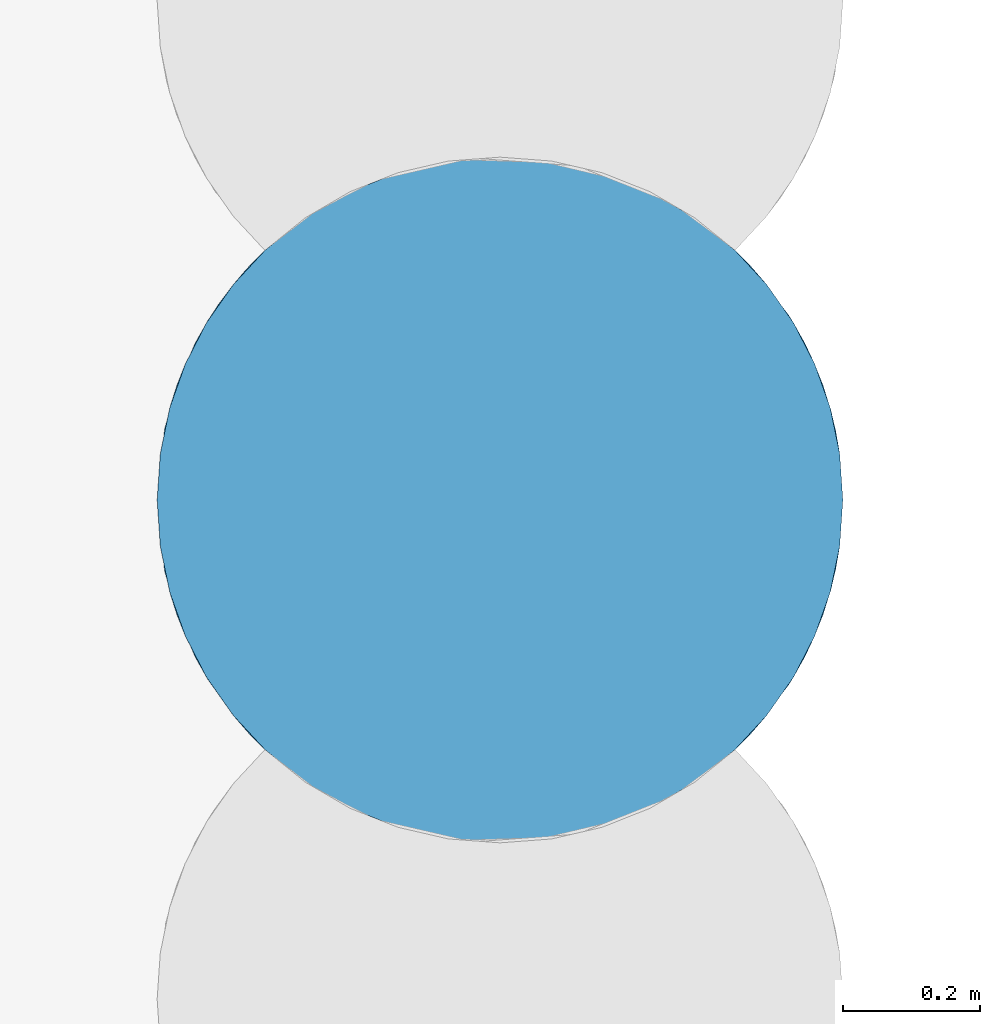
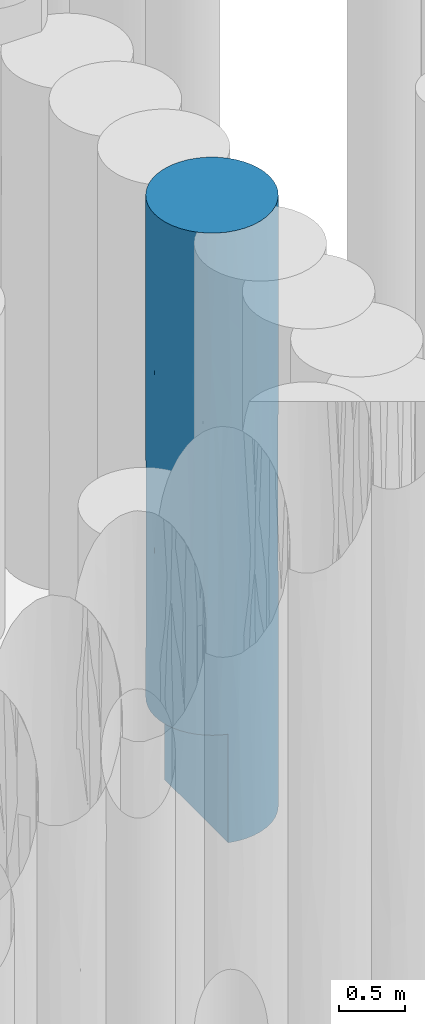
# One storey, part 56 of 104: 1 pile.
"""IFC2X3 building model written with IfcOpenShell, lengths in millimetres."""

from ifc_helpers import new_model, entity, si_unit, converted_unit, derived_unit, direction, frame, origin, place, context, subcontext, project, spatial, faceted_brep, source, transform, mapped, material, element, save


model = new_model("IFC2X3")

# Units and contexts
model_context = context("Model", 3, precision=0.01, world=origin(), true_north=direction((6.12303176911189e-17, 1.0)))
body_context = subcontext(model_context, "Body", "Model", "MODEL_VIEW")
ifc_project = project(units=[si_unit("LENGTHUNIT", "METRE", prefix="MILLI"), si_unit("AREAUNIT", "SQUARE_METRE", prefix="MILLI"), si_unit("VOLUMEUNIT", "CUBIC_METRE"), converted_unit("PLANEANGLEUNIT", "DEGREE", entity("IfcRatioMeasure", 0.0174532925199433), si_unit("PLANEANGLEUNIT", "RADIAN"), dimensions=[0, 0, 0, 0, 0, 0, 0]), si_unit("MASSUNIT", "GRAM", prefix="KILO"), derived_unit("MASSDENSITYUNIT", [(si_unit("MASSUNIT", "GRAM", prefix="KILO"), 1), (si_unit("LENGTHUNIT", "METRE"), -3)]), derived_unit("MOMENTOFINERTIAUNIT", [(si_unit("LENGTHUNIT", "METRE"), 4)]), si_unit("TIMEUNIT", "SECOND"), si_unit("FREQUENCYUNIT", "HERTZ"), si_unit("THERMODYNAMICTEMPERATUREUNIT", "DEGREE_CELSIUS"), derived_unit("THERMALTRANSMITTANCEUNIT", [(si_unit("MASSUNIT", "GRAM", prefix="KILO"), 1), (si_unit("THERMODYNAMICTEMPERATUREUNIT", "KELVIN"), -1), (si_unit("TIMEUNIT", "SECOND"), -3)]), derived_unit("VOLUMETRICFLOWRATEUNIT", [(si_unit("LENGTHUNIT", "METRE"), 3), (si_unit("TIMEUNIT", "SECOND"), -1)]), si_unit("ELECTRICCURRENTUNIT", "AMPERE"), si_unit("ELECTRICVOLTAGEUNIT", "VOLT"), si_unit("POWERUNIT", "WATT"), si_unit("FORCEUNIT", "NEWTON", prefix="KILO"), si_unit("ILLUMINANCEUNIT", "LUX"), si_unit("LUMINOUSFLUXUNIT", "LUMEN"), si_unit("LUMINOUSINTENSITYUNIT", "CANDELA"), derived_unit("USERDEFINED", [(si_unit("MASSUNIT", "GRAM", prefix="KILO"), -1), (si_unit("LENGTHUNIT", "METRE"), -2), (si_unit("TIMEUNIT", "SECOND"), 3), (si_unit("LUMINOUSFLUXUNIT", "LUMEN"), 1)]), derived_unit("LINEARVELOCITYUNIT", [(si_unit("LENGTHUNIT", "METRE"), 1), (si_unit("TIMEUNIT", "SECOND"), -1)]), si_unit("PRESSUREUNIT", "PASCAL"), derived_unit("USERDEFINED", [(si_unit("LENGTHUNIT", "METRE"), -2), (si_unit("MASSUNIT", "GRAM", prefix="KILO"), 1), (si_unit("TIMEUNIT", "SECOND"), -2)]), derived_unit("LINEARFORCEUNIT", [(si_unit("MASSUNIT", "GRAM", prefix="KILO"), 1), (si_unit("LENGTHUNIT", "METRE"), 1), (si_unit("TIMEUNIT", "SECOND"), -2), (si_unit("LENGTHUNIT", "METRE"), -1)]), derived_unit("PLANARFORCEUNIT", [(si_unit("MASSUNIT", "GRAM", prefix="KILO"), 1), (si_unit("LENGTHUNIT", "METRE"), 1), (si_unit("TIMEUNIT", "SECOND"), -2), (si_unit("LENGTHUNIT", "METRE"), -2)])], contexts=[model_context])

# Site, building, storey
site_placement = place(None, origin())
site = spatial("IfcSite", under=ifc_project, at=site_placement, Name="Theater aan de Parade", CompositionType="ELEMENT")
building_placement = place(site_placement, origin())
building = spatial("IfcBuilding", under=site, at=building_placement, Name="Theater aan de Parade", CompositionType="ELEMENT")
storey_placement = place(building_placement, frame((0.0, 0.0, -5520.0)))
storey = spatial("IfcBuildingStorey", under=building, at=storey_placement, Name="-2 kelder", CompositionType="ELEMENT", Elevation=-5520.0)

# Pile
ifc_material = material(Name="00_PBT_MAT_grout")
shared_shape = source(origin(), body_context, "Body", "Brep", [
    faceted_brep([(844.395954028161, 865.577619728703, 0.0), (890.539747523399, 815.796155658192, 0.0), (929.517904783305, 760.211243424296, 0.0), (960.607316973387, 699.857580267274, 0.0), (983.235228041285, 635.84486430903, 0.0), (996.982552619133, 569.355455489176, 0.0), (1001.59527223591, 501.595272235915, 0.0), (996.982552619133, 433.835088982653, 0.0), (983.235228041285, 367.345680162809, 0.0), (960.607316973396, 303.332964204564, 0.0), (929.517904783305, 242.979301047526, 0.0), (890.539747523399, 187.394388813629, 0.0), (844.395954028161, 137.612924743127, 0.0), (787.164833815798, 91.1686338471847, 0.0), (723.73631667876, 53.6517977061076, 0.0), (655.481623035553, 25.8653162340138, 0.0), (583.883200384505, 8.41305755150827, 0.0), (510.496193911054, 1.67450492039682, 0.0), (436.915459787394, 5.7963998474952, 0.0), (364.737142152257, 20.6900297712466, 0.0), (364.737142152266, 982.500514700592, 0.0), (436.915459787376, 997.394144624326, 0.0), (510.496193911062, 1001.51603955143, 0.0), (583.883200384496, 994.777486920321, 0.0), (655.481623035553, 977.325228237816, 0.0), (723.736316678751, 949.538746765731, 0.0), (787.16483381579, 912.021910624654, 0.0), (946.088153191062, 730.562690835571, 1043.53969335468), (249.344536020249, 933.300688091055, 4463.17014318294), (158.80670766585, 865.59527223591, 5620.0), (217.483259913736, 913.032223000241, 5620.0), (985.213296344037, 628.534654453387, 1004.42933272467), (973.009053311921, 668.235744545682, 1936.0851593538), (463.858643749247, 1000.16918538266, 4259.34974449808), (501.595272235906, 1001.59527223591, 5620.0), (613.944699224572, 988.809399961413, 4275.67466699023), (204.660366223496, 903.875847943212, 1000.0), (181.161378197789, 885.420909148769, 2396.54211556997), (250.423769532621, 933.929490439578, 1914.18443114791), (868.306365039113, 841.48198044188, 1387.65374803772), (756.142699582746, 931.95048276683, 1012.0603417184), (959.032846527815, 703.463708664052, 2919.59475431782), (868.306364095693, 841.481981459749, 2809.9973883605), (925.761095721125, 766.32788108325, 3732.47138636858), (785.707284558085, 913.032223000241, 5620.0), (753.846007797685, 933.300688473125, 4800.53334556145), (720.545942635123, 951.106789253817, 5620.0), (890.546518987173, 815.787773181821, 5620.0), (946.091900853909, 730.555415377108, 4676.41921773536), (868.311762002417, 841.476157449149, 4258.14392244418), (973.010577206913, 668.231433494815, 3903.08947601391), (663.932568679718, 974.508162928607, 934.425623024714), (547.314016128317, 999.500681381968, 1387.25893523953), (91.3677288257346, 787.450764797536, 2236.39003135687), (158.806707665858, 865.59527223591, 1000.0), (112.658831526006, 815.80610127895, 1000.0), (539.331899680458, 1000.16918546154, 3038.70326995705), (194.690734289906, 896.3225256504, 3534.12619714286), (125.271006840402, 830.806522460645, 3130.1171957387), (1001.59527223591, 501.595272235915, 5620.0), (991.238840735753, 602.833485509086, 4676.41593545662), (996.982276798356, 569.357471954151, 5620.0), (308.346723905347, 962.740584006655, 1000.0), (254.743436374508, 936.410372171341, 1000.0), (76.2812336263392, 764.479217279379, 4615.57643001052), (30.1799660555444, 668.231430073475, 4401.73359973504), (42.5806424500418, 699.851595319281, 5620.0), (1001.59527223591, 501.595272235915, 3123.07544949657), (1001.59527223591, 501.595272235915, 4058.46227525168), (983.235934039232, 635.842331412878, 5620.0), (660.984834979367, 975.509786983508, 3485.87169634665), (726.994212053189, 947.908299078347, 2859.16529902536), (632.292271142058, 984.211366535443, 2619.96955620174), (281.1516122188, 950.376502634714, 3301.86801593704), (403.358032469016, 991.849741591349, 3206.83737331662), (336.246493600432, 973.463666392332, 2200.06745595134), (57.0986427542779, 730.555413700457, 3310.00244835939), (134.878781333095, 841.476156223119, 4148.62385475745), (960.609902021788, 699.851595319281, 5620.0), (929.522999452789, 760.202813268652, 5620.0), (457.377813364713, 999.636250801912, 2181.17722905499), (350.648106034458, 978.265968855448, 4149.82848767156), (844.383836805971, 865.595272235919, 5620.0), (803.352544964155, 900.271266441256, 3201.16233092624), (650.395275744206, 978.940596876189, 5620.0), (576.853265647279, 995.899059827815, 5620.0), (922.600197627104, 771.326347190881, 2115.24967392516), (364.737142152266, 982.500514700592, 1000.0), (352.795268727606, 978.940596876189, 5620.0), (426.337278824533, 995.899059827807, 5620.0), (690.121589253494, 964.691188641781, 1836.52803985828), (991.55770847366, 601.278826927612, 2715.80955034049), (1001.59527223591, 501.595272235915, 1561.53772474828), (753.84600738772, 933.300688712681, 3910.60192042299), (73.6753405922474, 760.215712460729, 1000.0), (1.5952722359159, 501.595272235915, 2561.53770802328), (30.1797428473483, 668.230798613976, 2218.26464836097), (6.20628386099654, 569.3429673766, 1000.0), (794.694441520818, 906.6790622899, 2051.18962286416), (1.5952722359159, 501.595272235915, 1000.0), (6.20826767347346, 569.357471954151, 5620.0), (1.5952722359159, 501.595272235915, 4123.07541604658), (1.5952722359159, 501.595272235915, 5620.0), (42.582206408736, 699.855216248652, 1000.0), (19.953191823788, 635.837241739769, 1000.0), (112.644025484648, 815.787773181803, 5620.0), (19.9546104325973, 635.842331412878, 5620.0), (282.644601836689, 951.106789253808, 5620.0), (12.4025620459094, 604.990109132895, 3331.95278221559), (462.729871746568, 1000.08246429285, 891.375751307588), (554.377817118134, 998.801469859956, 2217.52824525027), (73.6675450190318, 760.202813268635, 5620.0), (75.5355014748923, 239.921674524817, 1994.39433055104), (30.1797429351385, 334.959745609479, 2218.28268253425), (42.582206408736, 303.335328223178, 1000.0), (249.34453623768, 69.8898562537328, 4477.64028937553), (158.80670766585, 137.595272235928, 5620.0), (134.878781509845, 161.714388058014, 4204.32385528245), (73.1025715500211, 243.924929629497, 4207.11061054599), (30.1799661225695, 334.959114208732, 4401.70440777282), (57.1029969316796, 272.626677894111, 3309.99064385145), (204.660366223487, 99.3146965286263, 1000.0), (227.371021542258, 83.5031049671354, 2160.49952016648), (158.80670766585, 137.595272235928, 1000.0), (308.346723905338, 40.4499604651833, 1000.0), (336.246493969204, 29.7268779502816, 2397.27757697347), (112.658831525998, 187.384443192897, 1000.0), (134.88678968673, 161.705747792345, 2410.71841601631), (663.932569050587, 28.6823816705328, 934.425625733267), (6.20628386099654, 433.847577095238, 1000.0), (229.215704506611, 82.2989914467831, 3303.66461307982), (460.172142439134, 3.31410229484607, 994.544109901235), (547.314016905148, 3.68986316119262, 1387.25893630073), (433.611976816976, 6.23856082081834, 1852.86551730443), (364.737142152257, 20.6900297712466, 1000.0), (973.009053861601, 334.954801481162, 1936.08516455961), (946.088153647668, 272.627854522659, 1043.53969615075), (985.213296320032, 374.655889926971, 1004.4293363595), (890.546518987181, 187.402771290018, 5620.0), (946.091901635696, 272.635130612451, 4676.41921033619), (929.522999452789, 242.987731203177, 5620.0), (375.205583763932, 17.833299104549, 4812.35143846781), (282.644601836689, 52.0837552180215, 5620.0), (254.743436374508, 66.7801723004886, 1000.0), (868.311763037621, 161.714388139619, 4258.14392621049), (844.383836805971, 137.595272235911, 5620.0), (753.846008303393, 69.8898562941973, 4800.53334285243), (112.64402548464, 187.402771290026, 5620.0), (42.5806424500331, 303.338949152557, 5620.0), (151.10323236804, 145.006811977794, 3307.53404869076), (73.6753405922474, 242.974832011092, 1000.0), (973.010578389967, 334.959114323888, 3903.08946802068), (991.238840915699, 400.357059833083, 4676.41592103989), (19.9531918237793, 367.353302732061, 1000.0), (539.331900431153, 3.02135906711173, 3038.70327224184), (632.292272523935, 18.9791783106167, 2619.96956137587), (661.185093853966, 27.7481567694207, 3478.29436692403), (6.20826767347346, 433.833072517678, 5620.0), (959.03284775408, 299.726838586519, 2919.59475995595), (991.557708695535, 401.911718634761, 2715.80956584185), (960.609902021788, 303.338949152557, 5620.0), (485.427200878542, 1.85674713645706, 3803.51644471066), (428.94373235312, 6.9016764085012, 2922.6077655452), (922.600198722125, 231.864198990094, 2115.2496757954), (19.9546104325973, 367.348213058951, 5620.0), (756.142700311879, 71.2400621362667, 1012.06034369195), (463.858644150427, 3.02135905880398, 4693.02600419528), (389.245844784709, 14.3811446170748, 3987.40728501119), (73.6675450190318, 242.987731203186, 5620.0), (217.483259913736, 90.1583214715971, 5620.0), (726.994214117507, 55.2822464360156, 2859.1652972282), (690.121590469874, 38.4993563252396, 1836.52804321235), (650.395275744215, 24.2499475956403, 5620.0), (613.944699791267, 14.3811446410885, 4259.35054825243), (794.694442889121, 96.5114831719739, 2051.18962210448), (320.066399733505, 35.7119515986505, 3323.81988614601), (925.761097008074, 236.862665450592, 3732.47138341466), (554.377818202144, 4.38907472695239, 2217.52824747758), (868.306366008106, 161.708565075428, 1387.65375479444), (426.337278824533, 7.29148464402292, 5620.0), (501.595272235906, 1.5952722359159, 5620.0), (753.846008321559, 69.8898563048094, 3910.60191686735), (996.982276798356, 433.83307251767, 5620.0), (983.235934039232, 367.348213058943, 5620.0), (12.4043080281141, 398.192174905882, 3331.87000257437), (352.795268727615, 24.2499475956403, 5620.0), (576.853265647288, 7.29148464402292, 5620.0), (720.545942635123, 52.0837552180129, 5620.0), (785.707284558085, 90.1583214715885, 5620.0), (803.35254702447, 102.919279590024, 3201.16233698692), (868.30636604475, 161.708565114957, 2809.99739513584)], [[[0, 1, 2, 3, 4, 5, 6, 7, 8, 9, 10, 11, 12, 13, 14, 15, 16, 17, 18, 19, 20, 21, 22, 23, 24, 25, 26]], [[27, 3, 2]], [[28, 29, 30]], [[4, 31, 5]], [[32, 31, 27]], [[33, 34, 35]], [[36, 37, 38]], [[27, 1, 39]], [[31, 3, 27]], [[26, 25, 40]], [[41, 42, 43]], [[44, 45, 46]], [[47, 48, 49]], [[43, 48, 50]], [[51, 40, 25]], [[22, 52, 23]], [[53, 54, 55]], [[35, 56, 33]], [[51, 23, 52]], [[51, 25, 24]], [[57, 37, 58]], [[59, 60, 61]], [[38, 62, 63]], [[64, 65, 66]], [[4, 3, 31]], [[67, 50, 68]], [[43, 49, 48]], [[69, 60, 48]], [[61, 60, 69]], [[37, 53, 58]], [[70, 71, 72]], [[73, 74, 75]], [[58, 76, 77]], [[69, 48, 78]], [[79, 78, 48]], [[75, 74, 80]], [[28, 81, 73]], [[47, 49, 82]], [[82, 49, 45]], [[50, 48, 60]], [[83, 49, 42]], [[35, 84, 45]], [[47, 79, 48]], [[35, 85, 84]], [[86, 42, 41]], [[75, 80, 87]], [[0, 26, 40]], [[20, 87, 21]], [[1, 27, 2]], [[81, 88, 89]], [[51, 90, 40]], [[38, 75, 62]], [[91, 92, 32]], [[49, 93, 45]], [[54, 37, 36]], [[55, 94, 53]], [[1, 0, 39]], [[95, 96, 97]], [[98, 71, 83]], [[97, 99, 95]], [[100, 101, 102]], [[53, 96, 76]], [[103, 104, 96]], [[32, 41, 91]], [[96, 94, 103]], [[77, 64, 105]], [[39, 40, 98]], [[28, 73, 57]], [[100, 106, 65]], [[89, 34, 33]], [[34, 85, 35]], [[62, 75, 87]], [[59, 68, 60]], [[89, 33, 81]], [[30, 107, 28]], [[108, 96, 95]], [[97, 96, 104]], [[29, 28, 77]], [[74, 81, 33]], [[76, 65, 64]], [[75, 38, 73]], [[22, 21, 109]], [[100, 65, 101]], [[29, 77, 105]], [[108, 101, 65]], [[70, 93, 71]], [[45, 84, 46]], [[106, 66, 65]], [[72, 110, 56]], [[111, 64, 66]], [[108, 65, 76]], [[81, 107, 88]], [[109, 21, 87]], [[86, 27, 39]], [[6, 5, 92]], [[68, 50, 60]], [[98, 40, 90]], [[0, 40, 39]], [[45, 44, 82]], [[35, 45, 93]], [[71, 98, 90]], [[42, 39, 98]], [[41, 43, 50]], [[42, 49, 43]], [[91, 50, 67]], [[41, 32, 86]], [[27, 86, 32]], [[39, 42, 86]], [[53, 37, 54]], [[94, 96, 53]], [[96, 108, 76]], [[101, 108, 95]], [[33, 56, 74]], [[80, 74, 56]], [[72, 71, 90]], [[83, 71, 93]], [[50, 91, 41]], [[92, 91, 67]], [[110, 80, 56]], [[80, 52, 109]], [[32, 92, 31]], [[5, 31, 92]], [[73, 81, 74]], [[81, 28, 107]], [[23, 51, 24]], [[52, 90, 51]], [[110, 90, 52]], [[70, 56, 35]], [[56, 70, 72]], [[93, 70, 35]], [[90, 110, 72]], [[80, 110, 52]], [[76, 58, 53]], [[57, 58, 77]], [[28, 57, 77]], [[37, 57, 73]], [[49, 83, 93]], [[98, 83, 42]], [[36, 38, 63]], [[73, 38, 37]], [[105, 64, 111]], [[76, 64, 77]], [[80, 109, 87]], [[22, 109, 52]], [[112, 113, 114]], [[115, 116, 117]], [[118, 119, 120]], [[121, 122, 123]], [[124, 125, 122]], [[126, 127, 112]], [[128, 15, 14]], [[95, 99, 129]], [[125, 130, 122]], [[131, 132, 133]], [[134, 19, 18]], [[135, 136, 137]], [[138, 139, 140]], [[115, 141, 142]], [[124, 122, 143]], [[144, 145, 146]], [[92, 137, 7]], [[125, 124, 134]], [[147, 117, 116]], [[127, 126, 123]], [[118, 148, 119]], [[130, 149, 122]], [[112, 114, 150]], [[151, 68, 152]], [[129, 153, 113]], [[154, 155, 156]], [[102, 101, 157]], [[157, 101, 119]], [[151, 158, 159]], [[160, 140, 139]], [[154, 161, 162]], [[163, 135, 158]], [[148, 164, 119]], [[130, 115, 117]], [[165, 14, 13]], [[166, 141, 167]], [[118, 168, 148]], [[169, 115, 142]], [[170, 155, 171]], [[146, 172, 173]], [[115, 167, 141]], [[171, 174, 170]], [[125, 175, 130]], [[125, 133, 162]], [[17, 132, 131]], [[176, 139, 144]], [[17, 16, 132]], [[133, 177, 162]], [[177, 171, 155]], [[178, 165, 12]], [[179, 166, 180]], [[163, 136, 135]], [[115, 130, 175]], [[128, 14, 165]], [[11, 178, 12]], [[115, 169, 116]], [[92, 7, 6]], [[173, 181, 146]], [[59, 182, 152]], [[152, 182, 183]], [[136, 10, 9]], [[184, 113, 120]], [[184, 101, 95]], [[137, 136, 9]], [[9, 8, 137]], [[157, 119, 164]], [[129, 113, 95]], [[67, 68, 151]], [[141, 179, 185]], [[138, 145, 144]], [[173, 166, 161]], [[184, 120, 119]], [[166, 186, 180]], [[172, 186, 173]], [[118, 147, 168]], [[165, 174, 171]], [[165, 171, 128]], [[11, 10, 136]], [[187, 146, 188]], [[188, 146, 145]], [[120, 113, 112]], [[127, 122, 149]], [[158, 151, 176]], [[151, 152, 139]], [[139, 152, 183]], [[139, 176, 151]], [[139, 138, 144]], [[189, 144, 181]], [[139, 183, 160]], [[149, 120, 127]], [[159, 92, 67]], [[16, 15, 128]], [[11, 136, 178]], [[153, 114, 113]], [[59, 152, 68]], [[12, 165, 13]], [[174, 165, 178]], [[161, 166, 167]], [[186, 166, 173]], [[146, 187, 172]], [[144, 146, 181]], [[178, 190, 174]], [[170, 189, 181]], [[144, 190, 176]], [[190, 163, 158]], [[190, 158, 176]], [[159, 158, 135]], [[190, 178, 163]], [[136, 163, 178]], [[101, 184, 119]], [[113, 184, 95]], [[189, 174, 190]], [[181, 173, 156]], [[92, 159, 135]], [[151, 159, 67]], [[7, 137, 8]], [[92, 135, 137]], [[167, 175, 162]], [[173, 161, 154]], [[167, 162, 161]], [[125, 134, 133]], [[131, 133, 134]], [[133, 132, 177]], [[171, 132, 128]], [[16, 128, 132]], [[156, 155, 170]], [[177, 155, 154]], [[181, 156, 170]], [[154, 156, 173]], [[177, 154, 162]], [[171, 177, 132]], [[179, 141, 166]], [[141, 185, 142]], [[134, 18, 131]], [[17, 131, 18]], [[174, 189, 170]], [[144, 189, 190]], [[123, 122, 127]], [[143, 122, 121]], [[162, 175, 125]], [[115, 175, 167]], [[130, 117, 149]], [[149, 117, 118]], [[149, 118, 120]], [[118, 117, 147]], [[126, 112, 150]], [[120, 112, 127]], [[46, 84, 85, 34, 89, 88, 107, 30, 29, 105, 111, 66, 106, 100, 102, 157, 164, 148, 168, 147, 116, 169, 142, 185, 179, 180, 186, 172, 187, 188, 145, 138, 140, 160, 183, 182, 59, 61, 69, 78, 79, 47, 82, 44]], [[94, 55, 54, 36, 63, 62, 87, 134, 124, 143, 121, 123, 126, 150, 114, 153, 129, 99, 97, 104, 103]], [[134, 87, 20, 19]]]),
])
pile_placement = place(storey_placement, frame((41760.2628578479, 40895.2179922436, -3840.0)))
element("IfcPile", 1, at=pile_placement, inside=storey, material=ifc_material, Name="17_PBT_SFO_grondkering_rond:Ø1000 (grondkering)", ObjectType="17_PBT_SFO_grondkering_rond:Ø1000 (grondkering)", PredefinedType="NOTDEFINED", context=body_context, shape_type="MappedRepresentation", body=[
    mapped(shared_shape, transform((0.0, 0.0, 0.0), scale=1.0)),
])

save(model, "model.ifc")
